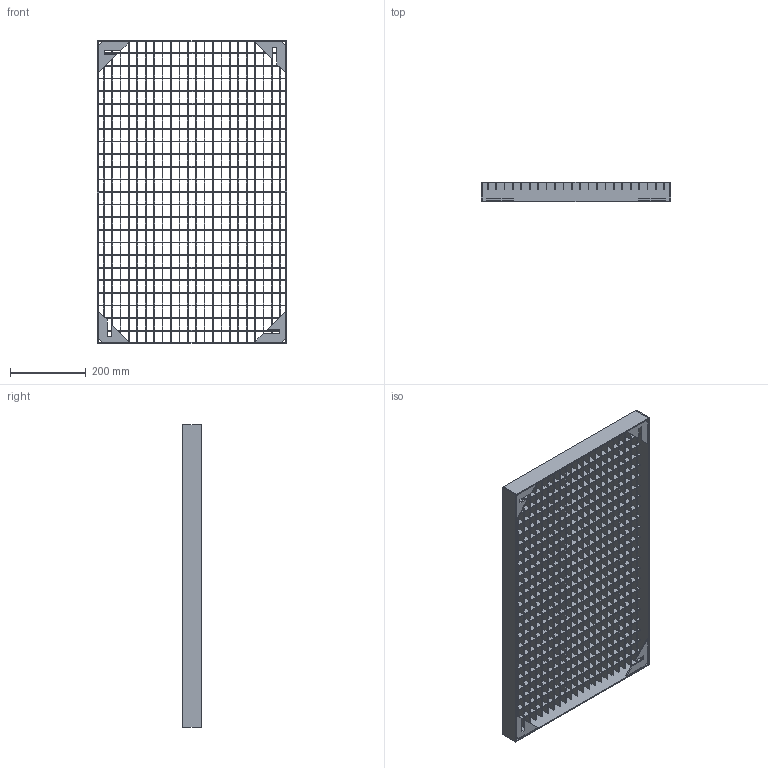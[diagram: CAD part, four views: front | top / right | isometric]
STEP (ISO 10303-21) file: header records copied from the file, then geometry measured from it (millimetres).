
FILE_DESCRIPTION (( 'STEP AP203' ), '1' );
FILE_NAME ('11012508G_Trinrist_500x800_20x30_20x2_mm_.STEP', '2014-12-19T10:47:19', ( '' ), ( '' ), 'SwSTEP 2.0', 'SolidWorks 2013', '' );
FILE_SCHEMA (( 'CONFIG_CONTROL_DESIGN' ));
Length unit declared in the file: millimetre
Products named in the file (6): 11012508G_Tvaerstav_20x2x794_mm_; 11012508G_Kantstaal_50x3x494_mm_; 11012508G_Kantstaal_50x3x800_mm_; 11012508G_Hjoernebeslag_80x80x3_mm_; 11012508G_Trinrist_500x800_20x30_20x2_mm_; 11012508G_Ribbe_20x2x494_mm_
Assembly tree (53 placements, depth 2):
  11012508G_Trinrist_500x800_20x30_20x2_mm_
    11012508G_Ribbe_20x2x494_mm_  x23
    11012508G_Tvaerstav_20x2x794_mm_  x22
    11012508G_Kantstaal_50x3x494_mm_  x2
    11012508G_Kantstaal_50x3x800_mm_  x2
    11012508G_Hjoernebeslag_80x80x3_mm_  x4
Bounding box: 500 x 50 x 800 mm (x, y, z)
Volume: 1534944.9 mm3; surface area: 1574438.2 mm2
Topology: 53 solids, 53 shells, 4382 faces, 12828 edges, 8552 vertices
Faces by surface type: plane 4382
Entity records: 9004 total; most frequent: CARTESIAN_POINT 1290, ORIENTED_EDGE 1224, DIRECTION 1152, LINE 612, EDGE_CURVE 612, VECTOR 612, VERTEX_POINT 408, AXIS2_PLACEMENT_3D 270
